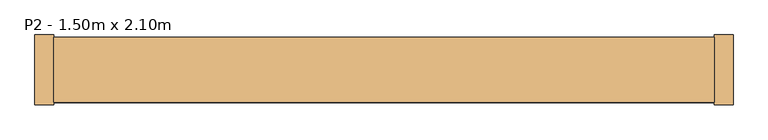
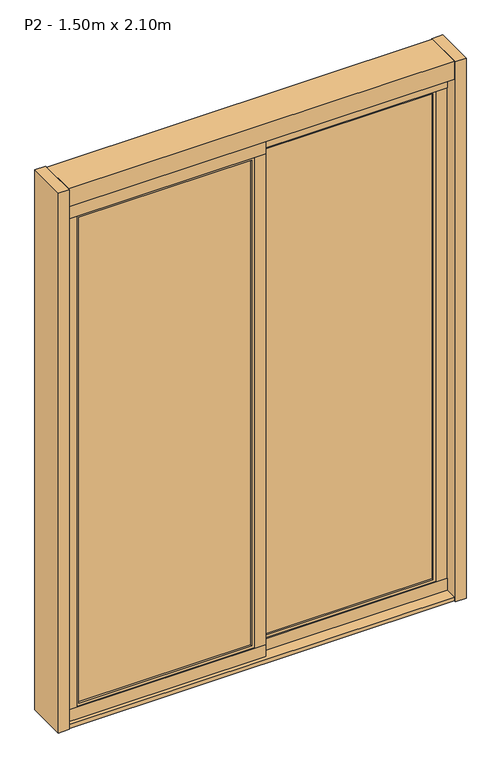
"""IFC4 building model written with IfcOpenShell, lengths in millimetres: door geometry, Porta de Correr - 2 Folhas - ComPainel 1 : P2 - 1.50m x 2.10m."""

from ifc_helpers import new_model, si_unit, frame, origin, origin_with_axes, place, context, project, spatial, polyline, outline, extrude, faceted_brep, source, transform, mapped, element, save


def p2_1_50m_x_2_10m_936728f7(model_context):
    return source(origin(), model_context, "Body", "SolidModel", [
        extrude(outline(polyline([(1000.0, 734.2060771), (1000.0, 704.2060771), (800.0, 704.2060771), (800.0, 734.2060771), (1000.0, 734.2060771)]), holes=[polyline([(924.4849874, 711.0294364), (924.4849874, 728.1448294), (820.0, 728.1448294), (820.0, 711.0294364), (924.4849874, 711.0294364)])]), frame((0.0, 5.0, 0.0), z_axis=(0.0, 1.0, 0.0), x_axis=(0.0, 0.0, 1.0)), (0.0, 0.0, 1.0), 2.3991119),
        extrude(outline(polyline([(689.2060771, -7.672758), (689.2060771, -12.9358747), (54.2060771, -12.9358747), (54.2060771, -7.672758), (689.2060771, -7.672758)])), frame((0.0, 0.0, 70.0), z_axis=(0.0, 0.0, 1.0), x_axis=(1.0, 0.0, 0.0)), (0.0, 0.0, 1.0), 1890.0),
        faceted_brep([(4.2060771, 5.0, 2030.0), (4.2060771, 5.0, 1970.0), (4.2060771, 4.375, 1970.0), (4.2060771, 4.375, 60.0), (4.2060771, 5.0, 60.0), (4.2060771, 5.0, 0.0), (4.2060771, -25.0, 0.0), (4.2060771, -25.0, 60.0), (4.2060771, -24.375, 60.0), (4.2060771, -24.375, 1970.0), (4.2060771, -25.0, 1970.0), (4.2060771, -25.0, 2030.0), (739.2060771, 5.0, 2030.0), (739.2060771, -25.0, 2030.0), (739.2060771, -25.0, 1970.0), (739.2060771, -23.75, 1970.0), (739.2060771, -23.75, 60.0), (739.2060771, -25.0, 60.0), (739.2060771, -25.0, 0.0), (739.2060771, 5.0, 0.0), (739.2060771, 5.0, 60.0), (739.2060771, 3.75, 60.0), (739.2060771, 3.75, 1970.0), (739.2060771, 5.0, 1970.0), (44.2060771, -24.375, 1970.0), (44.2060771, -20.0, 1970.0), (699.2060771, -20.0, 1970.0), (699.2060771, -23.75, 1970.0), (44.2060771, -20.0, 60.0), (699.2060771, -20.0, 60.0), (689.2060771, -20.0, 1960.0), (689.2060771, -20.0, 70.0), (54.2060771, -20.0, 70.0), (54.2060771, -20.0, 1960.0), (54.2060771, 0.0, 1960.0), (689.2060771, 0.0, 1960.0), (699.2060771, 0.0, 1970.0), (699.2060771, 0.0, 60.0), (44.2060771, 0.0, 60.0), (44.2060771, 0.0, 1970.0), (54.2060771, 0.0, 70.0), (689.2060771, 0.0, 70.0), (699.2060771, 3.75, 1970.0), (44.2060771, 4.375, 1970.0), (44.2060771, -24.375, 60.0), (44.2060771, 4.375, 60.0), (699.2060771, -23.75, 60.0), (699.2060771, 3.75, 60.0)], [[[0, 1, 2, 3, 4, 5, 6, 7, 8, 9, 10, 11]], [[12, 13, 14, 15, 16, 17, 18, 19, 20, 21, 22, 23]], [[11, 13, 12, 0]], [[10, 14, 13, 11]], [[10, 9, 24, 25, 26, 27, 15, 14]], [[25, 28, 29, 26], [30, 31, 32, 33]], [[34, 35, 30, 33]], [[36, 37, 38, 39], [34, 40, 41, 35]], [[23, 22, 42, 36, 39, 43, 2, 1]], [[0, 12, 23, 1]], [[8, 44, 24, 9]], [[44, 28, 25, 24]], [[33, 32, 40, 34]], [[43, 39, 38, 45]], [[2, 43, 45, 3]], [[15, 27, 46, 16]], [[27, 26, 29, 46]], [[35, 41, 31, 30]], [[47, 37, 36, 42]], [[21, 47, 42, 22]], [[18, 6, 5, 19]], [[17, 7, 6, 18]], [[17, 16, 46, 29, 28, 44, 8, 7]], [[40, 32, 31, 41]], [[4, 3, 45, 38, 37, 47, 21, 20]], [[19, 5, 4, 20]]]),
        extrude(outline(polyline([(4.2060771, -37.672758), (4.2060771, -42.9358747), (-630.7939229, -42.9358747), (-630.7939229, -37.672758), (4.2060771, -37.672758)])), frame((0.0, 0.0, 70.0), z_axis=(0.0, 0.0, 1.0), x_axis=(1.0, 0.0, 0.0)), (0.0, 0.0, 1.0), 1890.0),
        faceted_brep([(-680.7939229, -25.0, 2030.0), (-680.7939229, -25.0, 1970.0), (-680.7939229, -25.625, 1970.0), (-680.7939229, -25.625, 60.0), (-680.7939229, -25.0, 60.0), (-680.7939229, -25.0, 0.0), (-680.7939229, -55.0, 0.0), (-680.7939229, -55.0, 60.0), (-680.7939229, -54.375, 60.0), (-680.7939229, -54.375, 1970.0), (-680.7939229, -55.0, 1970.0), (-680.7939229, -55.0, 2030.0), (54.2060771, -25.0, 2030.0), (54.2060771, -55.0, 2030.0), (54.2060771, -55.0, 1970.0), (54.2060771, -53.75, 1970.0), (54.2060771, -53.75, 60.0), (54.2060771, -55.0, 60.0), (54.2060771, -55.0, 0.0), (54.2060771, -25.0, 0.0), (54.2060771, -25.0, 60.0), (54.2060771, -26.25, 60.0), (54.2060771, -26.25, 1970.0), (54.2060771, -25.0, 1970.0), (-640.7939229, -54.375, 1970.0), (-640.7939229, -50.0, 1970.0), (14.2060771, -50.0, 1970.0), (14.2060771, -53.75, 1970.0), (-640.7939229, -50.0, 60.0), (14.2060771, -50.0, 60.0), (4.2060771, -50.0, 1960.0), (4.2060771, -50.0, 70.0), (-630.7939229, -50.0, 70.0), (-630.7939229, -50.0, 1960.0), (-630.7939229, -30.0, 1960.0), (4.2060771, -30.0, 1960.0), (14.2060771, -30.0, 1970.0), (14.2060771, -30.0, 60.0), (-640.7939229, -30.0, 60.0), (-640.7939229, -30.0, 1970.0), (-630.7939229, -30.0, 70.0), (4.2060771, -30.0, 70.0), (14.2060771, -26.25, 1970.0), (-640.7939229, -25.625, 1970.0), (-640.7939229, -54.375, 60.0), (-640.7939229, -25.625, 60.0), (14.2060771, -53.75, 60.0), (14.2060771, -26.25, 60.0)], [[[0, 1, 2, 3, 4, 5, 6, 7, 8, 9, 10, 11]], [[12, 13, 14, 15, 16, 17, 18, 19, 20, 21, 22, 23]], [[11, 13, 12, 0]], [[10, 14, 13, 11]], [[10, 9, 24, 25, 26, 27, 15, 14]], [[25, 28, 29, 26], [30, 31, 32, 33]], [[34, 35, 30, 33]], [[36, 37, 38, 39], [34, 40, 41, 35]], [[23, 22, 42, 36, 39, 43, 2, 1]], [[0, 12, 23, 1]], [[8, 44, 24, 9]], [[44, 28, 25, 24]], [[33, 32, 40, 34]], [[43, 39, 38, 45]], [[2, 43, 45, 3]], [[15, 27, 46, 16]], [[27, 26, 29, 46]], [[35, 41, 31, 30]], [[47, 37, 36, 42]], [[21, 47, 42, 22]], [[18, 6, 5, 19]], [[17, 7, 6, 18]], [[17, 16, 46, 29, 28, 44, 8, 7]], [[40, 32, 31, 41]], [[4, 3, 45, 38, 37, 47, 21, 20]], [[19, 5, 4, 20]]]),
        extrude(outline(polyline([(739.2060771, 70.0), (739.2060771, -70.0), (-680.7939229, -70.0), (-680.7939229, 70.0), (739.2060771, 70.0)])), frame((0.0, 0.0, 2030.0), z_axis=(0.0, 0.0, 1.0), x_axis=(1.0, 0.0, 0.0)), (0.0, 0.0, 1.0), 70.0),
        extrude(outline(polyline([(739.2060771, 70.0), (739.2060771, -70.0), (-680.7939229, -70.0), (-680.7939229, 70.0), (739.2060771, 70.0)])), origin_with_axes(), (0.0, 0.0, 1.0), 15.0),
        extrude(outline(polyline([(-680.7939229, 75.0), (-680.7939229, -75.0), (-720.7939229, -75.0), (-720.7939229, 75.0), (-680.7939229, 75.0)])), origin_with_axes(), (0.0, 0.0, 1.0), 2100.0),
        extrude(outline(polyline([(779.2060771, 75.0), (779.2060771, -75.0), (739.2060771, -75.0), (739.2060771, 75.0), (779.2060771, 75.0)])), origin_with_axes(), (0.0, 0.0, 1.0), 2100.0),
    ])


if __name__ == "__main__":
    model = new_model("IFC4")
    model_context = context("Model", 3, world=origin())
    ifc_project = project(units=[si_unit("LENGTHUNIT", "METRE", prefix="MILLI")], contexts=[model_context])
    site = spatial("IfcSite", under=ifc_project)
    building = spatial("IfcBuilding", under=site)
    placement = place(None, origin())
    p2_1_50m_x_2_10m_shape = p2_1_50m_x_2_10m_936728f7(model_context)
    element("IfcDoor", 1, ObjectType="Porta de Correr - 2 Folhas - ComPainel 1 : P2 - 1.50m x 2.10m", at=placement, inside=building, context=model_context, shape_type="MappedRepresentation", body=[
        mapped(p2_1_50m_x_2_10m_shape, transform((0.0, 0.0, 0.0), x_axis=(1.0, 0.0, 0.0), y_axis=(0.0, 1.0, 0.0), z_axis=(0.0, 0.0, 1.0))),
    ])
    save(model, "model.ifc")
